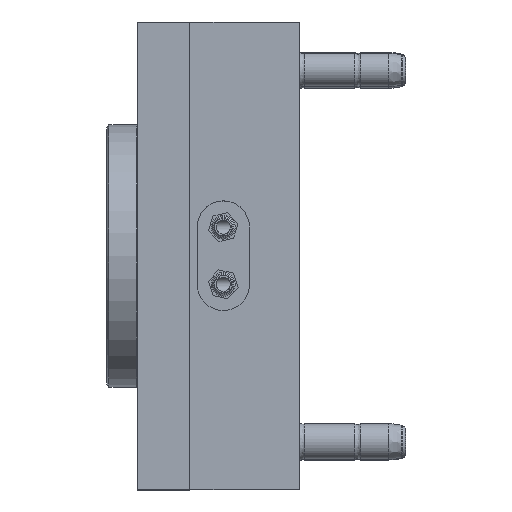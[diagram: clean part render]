
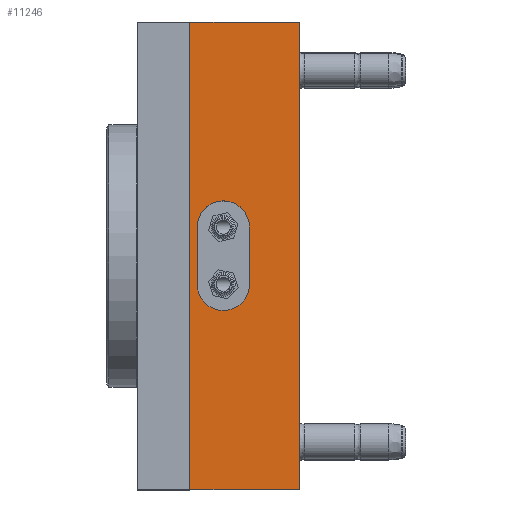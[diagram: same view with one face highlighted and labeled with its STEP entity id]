
A CAD part, top view. The second image highlights one B-rep face of the part: STEP entity #11246.
In plain terms, the highlighted planar face has unit normal (0, 0, 1) as drawn and (0, 1, 0) by its records, which use the part's own axes.
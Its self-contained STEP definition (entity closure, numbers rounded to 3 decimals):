
#17 = CARTESIAN_POINT ( 'NONE',  ( 46., 78., 98. ) ) ;
#832 = CARTESIAN_POINT ( 'NONE',  ( 32., 78., -12. ) ) ;
#1156 = VERTEX_POINT ( 'NONE', #47724 ) ;
#1255 = VECTOR ( 'NONE', #9638, 1000. ) ;
#1495 = EDGE_CURVE ( 'NONE', #35109, #46431, #13205, .T. ) ;
#1861 = VERTEX_POINT ( 'NONE', #24042 ) ;
#2710 = LINE ( 'NONE', #25721, #59750 ) ;
#3378 = ORIENTED_EDGE ( 'NONE', *, *, #59165, .T. ) ;
#3643 = DIRECTION ( 'NONE',  ( 0., 0., 1. ) ) ;
#6017 = LINE ( 'NONE', #42267, #17173 ) ;
#7038 = EDGE_CURVE ( 'NONE', #38124, #8361, #32865, .T. ) ;
#7249 = ORIENTED_EDGE ( 'NONE', *, *, #48766, .F. ) ;
#8361 = VERTEX_POINT ( 'NONE', #45489 ) ;
#8931 = CIRCLE ( 'NONE', #35931, 11. ) ;
#9024 = ORIENTED_EDGE ( 'NONE', *, *, #1495, .T. ) ;
#9638 = DIRECTION ( 'NONE',  ( 0., 0., -1. ) ) ;
#9639 = DIRECTION ( 'NONE',  ( 0., 0., 1. ) ) ;
#11094 = CARTESIAN_POINT ( 'NONE',  ( 0., 78., 98. ) ) ;
#11246 = ADVANCED_FACE ( 'NONE', ( #26724, #18225 ), #32132, .T. ) ;
#12792 = EDGE_CURVE ( 'NONE', #8361, #49940, #8931, .T. ) ;
#13205 = CIRCLE ( 'NONE', #17064, 11. ) ;
#13813 = CARTESIAN_POINT ( 'NONE',  ( 46., 78., 98. ) ) ;
#14360 = AXIS2_PLACEMENT_3D ( 'NONE', #28479, #55623, #40906 ) ;
#14947 = EDGE_LOOP ( 'NONE', ( #3378, #29723, #7249, #16535 ) ) ;
#15514 = AXIS2_PLACEMENT_3D ( 'NONE', #56809, #39037, #29663 ) ;
#16535 = ORIENTED_EDGE ( 'NONE', *, *, #48549, .T. ) ;
#17064 = AXIS2_PLACEMENT_3D ( 'NONE', #832, #19290, #37719 ) ;
#17173 = VECTOR ( 'NONE', #51907, 1000. ) ;
#18225 = FACE_BOUND ( 'NONE', #22204, .T. ) ;
#19290 = DIRECTION ( 'NONE',  ( 0., -1., 0. ) ) ;
#19517 = EDGE_CURVE ( 'NONE', #46431, #38124, #47290, .T. ) ;
#20169 = ORIENTED_EDGE ( 'NONE', *, *, #12792, .T. ) ;
#21108 = CARTESIAN_POINT ( 'NONE',  ( 43., 78., -12. ) ) ;
#21240 = CARTESIAN_POINT ( 'NONE',  ( 32., 78., 12. ) ) ;
#22204 = EDGE_LOOP ( 'NONE', ( #49802, #20169, #47924, #9024, #52313 ) ) ;
#24042 = CARTESIAN_POINT ( 'NONE',  ( 0., 78., -98. ) ) ;
#24531 = DIRECTION ( 'NONE',  ( -1., 0., 0. ) ) ;
#25721 = CARTESIAN_POINT ( 'NONE',  ( 46., 78., -98. ) ) ;
#26386 = LINE ( 'NONE', #54424, #1255 ) ;
#26724 = FACE_OUTER_BOUND ( 'NONE', #14947, .T. ) ;
#26849 = DIRECTION ( 'NONE',  ( 0., 0., 1. ) ) ;
#26986 = VECTOR ( 'NONE', #9639, 1000. ) ;
#27938 = CARTESIAN_POINT ( 'NONE',  ( 21., 78., -12. ) ) ;
#28479 = CARTESIAN_POINT ( 'NONE',  ( 46., 78., -98. ) ) ;
#29663 = DIRECTION ( 'NONE',  ( 0., 0., 1. ) ) ;
#29723 = ORIENTED_EDGE ( 'NONE', *, *, #56486, .F. ) ;
#30839 = VERTEX_POINT ( 'NONE', #17 ) ;
#32132 = PLANE ( 'NONE',  #14360 ) ;
#32248 = LINE ( 'NONE', #13813, #57428 ) ;
#32554 = CARTESIAN_POINT ( 'NONE',  ( 43., 78., -49. ) ) ;
#32865 = LINE ( 'NONE', #32554, #54592 ) ;
#34759 = VERTEX_POINT ( 'NONE', #11094 ) ;
#35109 = VERTEX_POINT ( 'NONE', #27938 ) ;
#35931 = AXIS2_PLACEMENT_3D ( 'NONE', #21240, #39670, #3643 ) ;
#37719 = DIRECTION ( 'NONE',  ( 0., 0., 1. ) ) ;
#38124 = VERTEX_POINT ( 'NONE', #21108 ) ;
#39037 = DIRECTION ( 'NONE',  ( 0., -1., 0. ) ) ;
#39670 = DIRECTION ( 'NONE',  ( 0., -1., 0. ) ) ;
#40906 = DIRECTION ( 'NONE',  ( 0., 0., 1. ) ) ;
#42267 = CARTESIAN_POINT ( 'NONE',  ( 0., 78., -98. ) ) ;
#45489 = CARTESIAN_POINT ( 'NONE',  ( 43., 78., 12. ) ) ;
#45678 = CARTESIAN_POINT ( 'NONE',  ( 32., 78., -23. ) ) ;
#46431 = VERTEX_POINT ( 'NONE', #45678 ) ;
#46465 = CARTESIAN_POINT ( 'NONE',  ( 21., 78., 12. ) ) ;
#47290 = CIRCLE ( 'NONE', #15514, 11. ) ;
#47724 = CARTESIAN_POINT ( 'NONE',  ( 46., 78., -98. ) ) ;
#47924 = ORIENTED_EDGE ( 'NONE', *, *, #53128, .T. ) ;
#48549 = EDGE_CURVE ( 'NONE', #1156, #1861, #2710, .T. ) ;
#48766 = EDGE_CURVE ( 'NONE', #1156, #30839, #55804, .T. ) ;
#49802 = ORIENTED_EDGE ( 'NONE', *, *, #7038, .T. ) ;
#49940 = VERTEX_POINT ( 'NONE', #46465 ) ;
#50636 = DIRECTION ( 'NONE',  ( -1., 0., 0. ) ) ;
#51907 = DIRECTION ( 'NONE',  ( 0., 0., 1. ) ) ;
#52313 = ORIENTED_EDGE ( 'NONE', *, *, #19517, .T. ) ;
#53128 = EDGE_CURVE ( 'NONE', #49940, #35109, #26386, .T. ) ;
#54424 = CARTESIAN_POINT ( 'NONE',  ( 21., 78., -49. ) ) ;
#54592 = VECTOR ( 'NONE', #26849, 1000. ) ;
#54908 = CARTESIAN_POINT ( 'NONE',  ( 46., 78., -98. ) ) ;
#55623 = DIRECTION ( 'NONE',  ( 0., 1., 0. ) ) ;
#55804 = LINE ( 'NONE', #54908, #26986 ) ;
#56486 = EDGE_CURVE ( 'NONE', #30839, #34759, #32248, .T. ) ;
#56809 = CARTESIAN_POINT ( 'NONE',  ( 32., 78., -12. ) ) ;
#57428 = VECTOR ( 'NONE', #50636, 1000. ) ;
#59165 = EDGE_CURVE ( 'NONE', #1861, #34759, #6017, .T. ) ;
#59750 = VECTOR ( 'NONE', #24531, 1000. ) ;
